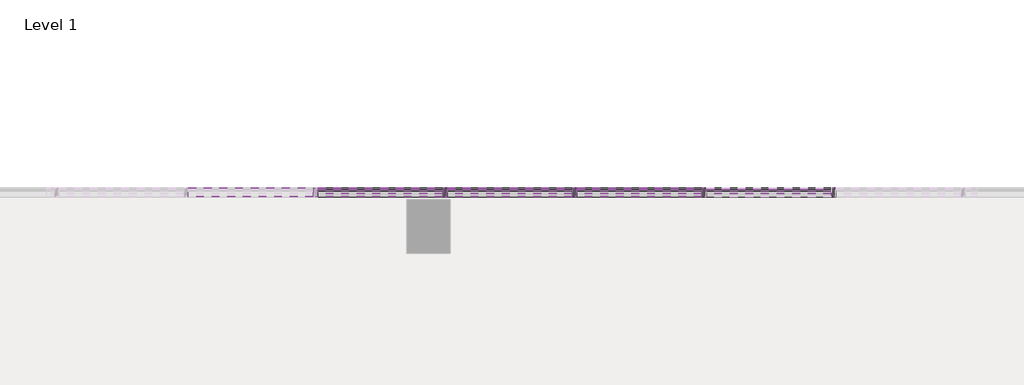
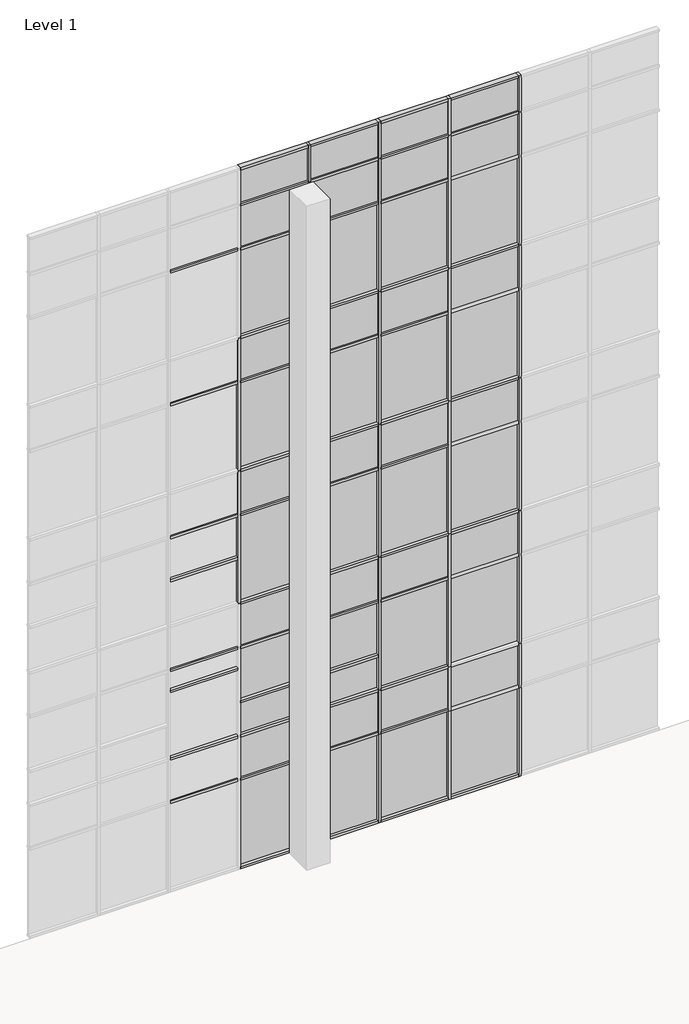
# One storey, part 12 of 23: 82 members, 46 plates.
"""IFC4 building model written with IfcOpenShell, lengths in millimetres."""

from ifc_helpers import new_model, si_unit, origin, place, context, project, spatial, transform, mapped, element, save
from components import member_2b49869a, member_f92b8aa2, member_810865a4, member_f0fea5a5, member_6d5c3e5e, member_9764dd38, system_panel_glazed_14c75400, system_panel_glazed_7d142148, system_panel_glazed_725bf07f, system_panel_solid_5dfe6f83, system_panel_solid_e25e2004, system_panel_solid_b7551183

model = new_model("IFC4")

# Units and contexts
model_context = context("Model", 3, world=origin())
ifc_project = project(units=[si_unit("LENGTHUNIT", "METRE", prefix="MILLI")], contexts=[model_context])

# Site, building, storey
site = spatial("IfcSite", under=ifc_project)
building = spatial("IfcBuilding", under=site)
storey = spatial("IfcBuildingStorey", under=building, Name="Level 1", Elevation=0.0)

# Members
placement = place(None, origin())
member_shape = member_2b49869a(model_context)
element("IfcMember", 1, ObjectType="Rectangular Mullion : 2.5\" x 5\" rectangular", at=placement, inside=storey, context=model_context, shape_type="MappedRepresentation", body=[
    mapped(member_shape, transform((-50775.4623649, 10017.7896508, 2438.4), x_axis=(1.0, 0.0, 0.0), y_axis=(0.0, -1.0, 0.0), z_axis=(0.0, 0.0, -1.0))),
])
element("IfcMember", 2, ObjectType="Rectangular Mullion : 2.5\" x 5\" rectangular", at=placement, inside=storey, context=model_context, shape_type="MappedRepresentation", body=[
    mapped(member_shape, transform((-52604.2623649, 10017.7896508, 2438.4), x_axis=(1.0, 0.0, 0.0), y_axis=(0.0, -1.0, 0.0), z_axis=(0.0, 0.0, -1.0))),
])
element("IfcMember", 3, ObjectType="Rectangular Mullion : 2.5\" x 5\" rectangular", at=placement, inside=storey, context=model_context, shape_type="MappedRepresentation", body=[
    mapped(member_shape, transform((-54433.0623649, 10017.7896508, 2438.4), x_axis=(1.0, 0.0, 0.0), y_axis=(0.0, -1.0, 0.0), z_axis=(0.0, 0.0, -1.0))),
])
element("IfcMember", 4, ObjectType="Rectangular Mullion : 2.5\" x 5\" rectangular", at=placement, inside=storey, context=model_context, shape_type="MappedRepresentation", body=[
    mapped(member_shape, transform((-56261.8623649, 10017.7896508, 2438.4), x_axis=(1.0, 0.0, 0.0), y_axis=(0.0, -1.0, 0.0), z_axis=(0.0, 0.0, -1.0))),
])
member_2_shape = member_f92b8aa2(model_context)
element("IfcMember", 5, ObjectType="Rectangular Mullion : 2.5\" x 5\" rectangular", at=placement, inside=storey, context=model_context, shape_type="MappedRepresentation", body=[
    mapped(member_2_shape, transform((-50775.4623649, 10017.7896508, 18288.0), x_axis=(1.0, 0.0, 0.0), y_axis=(0.0, -1.0, 0.0), z_axis=(0.0, 0.0, -1.0))),
])
element("IfcMember", 6, ObjectType="Rectangular Mullion : 2.5\" x 5\" rectangular", at=placement, inside=storey, context=model_context, shape_type="MappedRepresentation", body=[
    mapped(member_2_shape, transform((-52604.2623649, 10017.7896508, 18288.0), x_axis=(1.0, 0.0, 0.0), y_axis=(0.0, -1.0, 0.0), z_axis=(0.0, 0.0, -1.0))),
])
element("IfcMember", 7, ObjectType="Rectangular Mullion : 2.5\" x 5\" rectangular", at=placement, inside=storey, context=model_context, shape_type="MappedRepresentation", body=[
    mapped(member_2_shape, transform((-54433.0623649, 10017.7896508, 18288.0), x_axis=(1.0, 0.0, 0.0), y_axis=(0.0, -1.0, 0.0), z_axis=(0.0, 0.0, -1.0))),
])
element("IfcMember", 8, ObjectType="Rectangular Mullion : 2.5\" x 5\" rectangular", at=placement, inside=storey, context=model_context, shape_type="MappedRepresentation", body=[
    mapped(member_2_shape, transform((-56261.8623649, 10017.7896508, 18288.0), x_axis=(1.0, 0.0, 0.0), y_axis=(0.0, -1.0, 0.0), z_axis=(0.0, 0.0, -1.0))),
])
member_3_shape = member_810865a4(model_context)
element("IfcMember", 9, ObjectType="Rectangular Mullion : 2.5\" x 5\" rectangular", at=placement, inside=storey, context=model_context, shape_type="MappedRepresentation", body=[
    mapped(member_3_shape, transform((-50775.4623649, 10017.7896508, 14630.4), x_axis=(1.0, 0.0, 0.0), y_axis=(0.0, -1.0, 0.0), z_axis=(0.0, 0.0, -1.0))),
])
element("IfcMember", 10, ObjectType="Rectangular Mullion : 2.5\" x 5\" rectangular", at=placement, inside=storey, context=model_context, shape_type="MappedRepresentation", body=[
    mapped(member_3_shape, transform((-50775.4623649, 10017.7896508, 10972.8), x_axis=(1.0, 0.0, 0.0), y_axis=(0.0, -1.0, 0.0), z_axis=(0.0, 0.0, -1.0))),
])
element("IfcMember", 11, ObjectType="Rectangular Mullion : 2.5\" x 5\" rectangular", at=placement, inside=storey, context=model_context, shape_type="MappedRepresentation", body=[
    mapped(member_3_shape, transform((-50775.4623649, 10017.7896508, 7315.2), x_axis=(1.0, 0.0, 0.0), y_axis=(0.0, -1.0, 0.0), z_axis=(0.0, 0.0, -1.0))),
])
element("IfcMember", 12, ObjectType="Rectangular Mullion : 2.5\" x 5\" rectangular", at=placement, inside=storey, context=model_context, shape_type="MappedRepresentation", body=[
    mapped(member_3_shape, transform((-50775.4623649, 10017.7896508, 3657.6), x_axis=(1.0, 0.0, 0.0), y_axis=(0.0, -1.0, 0.0), z_axis=(0.0, 0.0, -1.0))),
])
element("IfcMember", 13, ObjectType="Rectangular Mullion : 2.5\" x 5\" rectangular", at=placement, inside=storey, context=model_context, shape_type="MappedRepresentation", body=[
    mapped(member_3_shape, transform((-52604.2623649, 10017.7896508, 14630.4), x_axis=(1.0, 0.0, 0.0), y_axis=(0.0, -1.0, 0.0), z_axis=(0.0, 0.0, -1.0))),
])
element("IfcMember", 14, ObjectType="Rectangular Mullion : 2.5\" x 5\" rectangular", at=placement, inside=storey, context=model_context, shape_type="MappedRepresentation", body=[
    mapped(member_3_shape, transform((-52604.2623649, 10017.7896508, 10972.8), x_axis=(1.0, 0.0, 0.0), y_axis=(0.0, -1.0, 0.0), z_axis=(0.0, 0.0, -1.0))),
])
element("IfcMember", 15, ObjectType="Rectangular Mullion : 2.5\" x 5\" rectangular", at=placement, inside=storey, context=model_context, shape_type="MappedRepresentation", body=[
    mapped(member_3_shape, transform((-52604.2623649, 10017.7896508, 7315.2), x_axis=(1.0, 0.0, 0.0), y_axis=(0.0, -1.0, 0.0), z_axis=(0.0, 0.0, -1.0))),
])
element("IfcMember", 16, ObjectType="Rectangular Mullion : 2.5\" x 5\" rectangular", at=placement, inside=storey, context=model_context, shape_type="MappedRepresentation", body=[
    mapped(member_3_shape, transform((-52604.2623649, 10017.7896508, 3657.6), x_axis=(1.0, 0.0, 0.0), y_axis=(0.0, -1.0, 0.0), z_axis=(0.0, 0.0, -1.0))),
])
element("IfcMember", 17, ObjectType="Rectangular Mullion : 2.5\" x 5\" rectangular", at=placement, inside=storey, context=model_context, shape_type="MappedRepresentation", body=[
    mapped(member_3_shape, transform((-54433.0623649, 10017.7896508, 14630.4), x_axis=(1.0, 0.0, 0.0), y_axis=(0.0, -1.0, 0.0), z_axis=(0.0, 0.0, -1.0))),
])
element("IfcMember", 18, ObjectType="Rectangular Mullion : 2.5\" x 5\" rectangular", at=placement, inside=storey, context=model_context, shape_type="MappedRepresentation", body=[
    mapped(member_3_shape, transform((-54433.0623649, 10017.7896508, 10972.8), x_axis=(1.0, 0.0, 0.0), y_axis=(0.0, -1.0, 0.0), z_axis=(0.0, 0.0, -1.0))),
])
element("IfcMember", 19, ObjectType="Rectangular Mullion : 2.5\" x 5\" rectangular", at=placement, inside=storey, context=model_context, shape_type="MappedRepresentation", body=[
    mapped(member_3_shape, transform((-54433.0623649, 10017.7896508, 7315.2), x_axis=(1.0, 0.0, 0.0), y_axis=(0.0, -1.0, 0.0), z_axis=(0.0, 0.0, -1.0))),
])
element("IfcMember", 20, ObjectType="Rectangular Mullion : 2.5\" x 5\" rectangular", at=placement, inside=storey, context=model_context, shape_type="MappedRepresentation", body=[
    mapped(member_3_shape, transform((-54433.0623649, 10017.7896508, 3657.6), x_axis=(1.0, 0.0, 0.0), y_axis=(0.0, -1.0, 0.0), z_axis=(0.0, 0.0, -1.0))),
])
element("IfcMember", 21, ObjectType="Rectangular Mullion : 2.5\" x 5\" rectangular", at=placement, inside=storey, context=model_context, shape_type="MappedRepresentation", body=[
    mapped(member_3_shape, transform((-56261.8623649, 10017.7896508, 14630.4), x_axis=(1.0, 0.0, 0.0), y_axis=(0.0, -1.0, 0.0), z_axis=(0.0, 0.0, -1.0))),
])
element("IfcMember", 22, ObjectType="Rectangular Mullion : 2.5\" x 5\" rectangular", at=placement, inside=storey, context=model_context, shape_type="MappedRepresentation", body=[
    mapped(member_3_shape, transform((-56261.8623649, 10017.7896508, 10972.8), x_axis=(1.0, 0.0, 0.0), y_axis=(0.0, -1.0, 0.0), z_axis=(0.0, 0.0, -1.0))),
])
element("IfcMember", 23, ObjectType="Rectangular Mullion : 2.5\" x 5\" rectangular", at=placement, inside=storey, context=model_context, shape_type="MappedRepresentation", body=[
    mapped(member_3_shape, transform((-56261.8623649, 10017.7896508, 7315.2), x_axis=(1.0, 0.0, 0.0), y_axis=(0.0, -1.0, 0.0), z_axis=(0.0, 0.0, -1.0))),
])
element("IfcMember", 24, ObjectType="Rectangular Mullion : 2.5\" x 5\" rectangular", at=placement, inside=storey, context=model_context, shape_type="MappedRepresentation", body=[
    mapped(member_3_shape, transform((-56261.8623649, 10017.7896508, 3657.6), x_axis=(1.0, 0.0, 0.0), y_axis=(0.0, -1.0, 0.0), z_axis=(0.0, 0.0, -1.0))),
])
element("IfcMember", 25, ObjectType="Rectangular Mullion : 2.5\" x 5\" rectangular", at=placement, inside=storey, context=model_context, shape_type="MappedRepresentation", body=[
    mapped(member_3_shape, transform((-58090.6623649, 10017.7896508, 10972.8), x_axis=(1.0, 0.0, 0.0), y_axis=(0.0, -1.0, 0.0), z_axis=(0.0, 0.0, -1.0))),
])
element("IfcMember", 26, ObjectType="Rectangular Mullion : 2.5\" x 5\" rectangular", at=placement, inside=storey, context=model_context, shape_type="MappedRepresentation", body=[
    mapped(member_3_shape, transform((-58090.6623649, 10017.7896508, 7315.2), x_axis=(1.0, 0.0, 0.0), y_axis=(0.0, -1.0, 0.0), z_axis=(0.0, 0.0, -1.0))),
])
member_4_shape = member_f0fea5a5(model_context)
element("IfcMember", 27, ObjectType="Rectangular Mullion : 2.5\" x 5\" rectangular", at=placement, inside=storey, context=model_context, shape_type="MappedRepresentation", body=[
    mapped(member_4_shape, transform((-50775.4623649, 10017.7896508, 0.0), x_axis=(1.0, 0.0, 0.0), y_axis=(0.0, -1.0, 0.0), z_axis=(0.0, 0.0, -1.0))),
])
element("IfcMember", 28, ObjectType="Rectangular Mullion : 2.5\" x 5\" rectangular", at=placement, inside=storey, context=model_context, shape_type="MappedRepresentation", body=[
    mapped(member_4_shape, transform((-56261.8623649, 10017.7896508, 0.0), x_axis=(1.0, 0.0, 0.0), y_axis=(0.0, -1.0, 0.0), z_axis=(0.0, 0.0, -1.0))),
])
element("IfcMember", 29, ObjectType="Rectangular Mullion : 2.5\" x 5\" rectangular", at=placement, inside=storey, context=model_context, shape_type="MappedRepresentation", body=[
    mapped(member_4_shape, transform((-52604.2623649, 10017.7896508, 0.0), x_axis=(1.0, 0.0, 0.0), y_axis=(0.0, -1.0, 0.0), z_axis=(0.0, 0.0, -1.0))),
])
element("IfcMember", 30, ObjectType="Rectangular Mullion : 2.5\" x 5\" rectangular", at=placement, inside=storey, context=model_context, shape_type="MappedRepresentation", body=[
    mapped(member_4_shape, transform((-54433.0623649, 10017.7896508, 0.0), x_axis=(1.0, 0.0, 0.0), y_axis=(0.0, -1.0, 0.0), z_axis=(0.0, 0.0, -1.0))),
])
member_5_shape = member_6d5c3e5e(model_context)
element("IfcMember", 31, ObjectType="Rectangular Mullion : 2.5\" x 5\" rectangular", at=placement, inside=storey, context=model_context, shape_type="MappedRepresentation", body=[
    mapped(member_5_shape, transform((-56293.6123649, 10017.7896508, 19304.0), x_axis=(0.0, 0.0, 1.0), y_axis=(0.0, -1.0, 0.0), z_axis=(1.0, 0.0, 0.0))),
])
element("IfcMember", 32, ObjectType="Rectangular Mullion : 2.5\" x 5\" rectangular", at=placement, inside=storey, context=model_context, shape_type="MappedRepresentation", body=[
    mapped(member_5_shape, transform((-50807.2123649, 10017.7896508, 19304.0), x_axis=(0.0, 0.0, 1.0), y_axis=(0.0, -1.0, 0.0), z_axis=(1.0, 0.0, 0.0))),
])
element("IfcMember", 33, ObjectType="Rectangular Mullion : 2.5\" x 5\" rectangular", at=placement, inside=storey, context=model_context, shape_type="MappedRepresentation", body=[
    mapped(member_5_shape, transform((-52636.0123649, 10017.7896508, 19304.0), x_axis=(0.0, 0.0, 1.0), y_axis=(0.0, -1.0, 0.0), z_axis=(1.0, 0.0, 0.0))),
])
element("IfcMember", 34, ObjectType="Rectangular Mullion : 2.5\" x 5\" rectangular", at=placement, inside=storey, context=model_context, shape_type="MappedRepresentation", body=[
    mapped(member_5_shape, transform((-54464.8123649, 10017.7896508, 19304.0), x_axis=(0.0, 0.0, 1.0), y_axis=(0.0, -1.0, 0.0), z_axis=(1.0, 0.0, 0.0))),
])
member_6_shape = member_9764dd38(model_context)
element("IfcMember", 35, ObjectType="Rectangular Mullion : 2.5\" x 5\" rectangular", at=placement, inside=storey, context=model_context, shape_type="MappedRepresentation", body=[
    mapped(member_6_shape, transform((-52636.0123649, 10017.7896508, 17068.8), x_axis=(0.0, 0.0, 1.0), y_axis=(0.0, -1.0, 0.0), z_axis=(1.0, 0.0, 0.0))),
])
element("IfcMember", 36, ObjectType="Rectangular Mullion : 2.5\" x 5\" rectangular", at=placement, inside=storey, context=model_context, shape_type="MappedRepresentation", body=[
    mapped(member_6_shape, transform((-54464.8123649, 10017.7896508, 17068.8), x_axis=(0.0, 0.0, 1.0), y_axis=(0.0, -1.0, 0.0), z_axis=(1.0, 0.0, 0.0))),
])
element("IfcMember", 37, ObjectType="Rectangular Mullion : 2.5\" x 5\" rectangular", at=placement, inside=storey, context=model_context, shape_type="MappedRepresentation", body=[
    mapped(member_6_shape, transform((-56293.6123649, 10017.7896508, 17068.8), x_axis=(0.0, 0.0, 1.0), y_axis=(0.0, -1.0, 0.0), z_axis=(1.0, 0.0, 0.0))),
])
element("IfcMember", 38, ObjectType="Rectangular Mullion : 2.5\" x 5\" rectangular", at=placement, inside=storey, context=model_context, shape_type="MappedRepresentation", body=[
    mapped(member_6_shape, transform((-58122.4123649, 10017.7896508, 17068.8), x_axis=(0.0, 0.0, 1.0), y_axis=(0.0, -1.0, 0.0), z_axis=(1.0, 0.0, 0.0))),
])
element("IfcMember", 39, ObjectType="Rectangular Mullion : 2.5\" x 5\" rectangular", at=placement, inside=storey, context=model_context, shape_type="MappedRepresentation", body=[
    mapped(member_6_shape, transform((-52636.0123649, 10017.7896508, 13411.2), x_axis=(0.0, 0.0, 1.0), y_axis=(0.0, -1.0, 0.0), z_axis=(1.0, 0.0, 0.0))),
])
element("IfcMember", 40, ObjectType="Rectangular Mullion : 2.5\" x 5\" rectangular", at=placement, inside=storey, context=model_context, shape_type="MappedRepresentation", body=[
    mapped(member_6_shape, transform((-54464.8123649, 10017.7896508, 13411.2), x_axis=(0.0, 0.0, 1.0), y_axis=(0.0, -1.0, 0.0), z_axis=(1.0, 0.0, 0.0))),
])
element("IfcMember", 41, ObjectType="Rectangular Mullion : 2.5\" x 5\" rectangular", at=placement, inside=storey, context=model_context, shape_type="MappedRepresentation", body=[
    mapped(member_6_shape, transform((-56293.6123649, 10017.7896508, 13411.2), x_axis=(0.0, 0.0, 1.0), y_axis=(0.0, -1.0, 0.0), z_axis=(1.0, 0.0, 0.0))),
])
element("IfcMember", 42, ObjectType="Rectangular Mullion : 2.5\" x 5\" rectangular", at=placement, inside=storey, context=model_context, shape_type="MappedRepresentation", body=[
    mapped(member_6_shape, transform((-58122.4123649, 10017.7896508, 13411.2), x_axis=(0.0, 0.0, 1.0), y_axis=(0.0, -1.0, 0.0), z_axis=(1.0, 0.0, 0.0))),
])
element("IfcMember", 43, ObjectType="Rectangular Mullion : 2.5\" x 5\" rectangular", at=placement, inside=storey, context=model_context, shape_type="MappedRepresentation", body=[
    mapped(member_6_shape, transform((-52636.0123649, 10017.7896508, 9753.6), x_axis=(0.0, 0.0, 1.0), y_axis=(0.0, -1.0, 0.0), z_axis=(1.0, 0.0, 0.0))),
])
element("IfcMember", 44, ObjectType="Rectangular Mullion : 2.5\" x 5\" rectangular", at=placement, inside=storey, context=model_context, shape_type="MappedRepresentation", body=[
    mapped(member_6_shape, transform((-54464.8123649, 10017.7896508, 9753.6), x_axis=(0.0, 0.0, 1.0), y_axis=(0.0, -1.0, 0.0), z_axis=(1.0, 0.0, 0.0))),
])
element("IfcMember", 45, ObjectType="Rectangular Mullion : 2.5\" x 5\" rectangular", at=placement, inside=storey, context=model_context, shape_type="MappedRepresentation", body=[
    mapped(member_6_shape, transform((-56293.6123649, 10017.7896508, 9753.6), x_axis=(0.0, 0.0, 1.0), y_axis=(0.0, -1.0, 0.0), z_axis=(1.0, 0.0, 0.0))),
])
element("IfcMember", 46, ObjectType="Rectangular Mullion : 2.5\" x 5\" rectangular", at=placement, inside=storey, context=model_context, shape_type="MappedRepresentation", body=[
    mapped(member_6_shape, transform((-58122.4123649, 10017.7896508, 9753.6), x_axis=(0.0, 0.0, 1.0), y_axis=(0.0, -1.0, 0.0), z_axis=(1.0, 0.0, 0.0))),
])
element("IfcMember", 47, ObjectType="Rectangular Mullion : 2.5\" x 5\" rectangular", at=placement, inside=storey, context=model_context, shape_type="MappedRepresentation", body=[
    mapped(member_6_shape, transform((-52636.0123649, 10017.7896508, 6096.0), x_axis=(0.0, 0.0, 1.0), y_axis=(0.0, -1.0, 0.0), z_axis=(1.0, 0.0, 0.0))),
])
element("IfcMember", 48, ObjectType="Rectangular Mullion : 2.5\" x 5\" rectangular", at=placement, inside=storey, context=model_context, shape_type="MappedRepresentation", body=[
    mapped(member_6_shape, transform((-54464.8123649, 10017.7896508, 6096.0), x_axis=(0.0, 0.0, 1.0), y_axis=(0.0, -1.0, 0.0), z_axis=(1.0, 0.0, 0.0))),
])
element("IfcMember", 49, ObjectType="Rectangular Mullion : 2.5\" x 5\" rectangular", at=placement, inside=storey, context=model_context, shape_type="MappedRepresentation", body=[
    mapped(member_6_shape, transform((-56293.6123649, 10017.7896508, 6096.0), x_axis=(0.0, 0.0, 1.0), y_axis=(0.0, -1.0, 0.0), z_axis=(1.0, 0.0, 0.0))),
])
element("IfcMember", 50, ObjectType="Rectangular Mullion : 2.5\" x 5\" rectangular", at=placement, inside=storey, context=model_context, shape_type="MappedRepresentation", body=[
    mapped(member_6_shape, transform((-58122.4123649, 10017.7896508, 6096.0), x_axis=(0.0, 0.0, 1.0), y_axis=(0.0, -1.0, 0.0), z_axis=(1.0, 0.0, 0.0))),
])
element("IfcMember", 51, ObjectType="Rectangular Mullion : 2.5\" x 5\" rectangular", at=placement, inside=storey, context=model_context, shape_type="MappedRepresentation", body=[
    mapped(member_6_shape, transform((-52636.0123649, 10017.7896508, 2470.15), x_axis=(0.0, 0.0, 1.0), y_axis=(0.0, -1.0, 0.0), z_axis=(1.0, 0.0, 0.0))),
])
element("IfcMember", 52, ObjectType="Rectangular Mullion : 2.5\" x 5\" rectangular", at=placement, inside=storey, context=model_context, shape_type="MappedRepresentation", body=[
    mapped(member_6_shape, transform((-54464.8123649, 10017.7896508, 2470.15), x_axis=(0.0, 0.0, 1.0), y_axis=(0.0, -1.0, 0.0), z_axis=(1.0, 0.0, 0.0))),
])
element("IfcMember", 53, ObjectType="Rectangular Mullion : 2.5\" x 5\" rectangular", at=placement, inside=storey, context=model_context, shape_type="MappedRepresentation", body=[
    mapped(member_6_shape, transform((-56293.6123649, 10017.7896508, 2470.15), x_axis=(0.0, 0.0, 1.0), y_axis=(0.0, -1.0, 0.0), z_axis=(1.0, 0.0, 0.0))),
])
element("IfcMember", 54, ObjectType="Rectangular Mullion : 2.5\" x 5\" rectangular", at=placement, inside=storey, context=model_context, shape_type="MappedRepresentation", body=[
    mapped(member_6_shape, transform((-58122.4123649, 10017.7896508, 2470.15), x_axis=(0.0, 0.0, 1.0), y_axis=(0.0, -1.0, 0.0), z_axis=(1.0, 0.0, 0.0))),
])
element("IfcMember", 55, ObjectType="Rectangular Mullion : 2.5\" x 5\" rectangular", at=placement, inside=storey, context=model_context, shape_type="MappedRepresentation", body=[
    mapped(member_6_shape, transform((-58122.4123649, 10017.7896508, 8566.15), x_axis=(0.0, 0.0, 1.0), y_axis=(0.0, -1.0, 0.0), z_axis=(1.0, 0.0, 0.0))),
])
element("IfcMember", 56, ObjectType="Rectangular Mullion : 2.5\" x 5\" rectangular", at=placement, inside=storey, context=model_context, shape_type="MappedRepresentation", body=[
    mapped(member_6_shape, transform((-58122.4123649, 10017.7896508, 5518.15), x_axis=(0.0, 0.0, 1.0), y_axis=(0.0, -1.0, 0.0), z_axis=(1.0, 0.0, 0.0))),
])
element("IfcMember", 57, ObjectType="Rectangular Mullion : 2.5\" x 5\" rectangular", at=placement, inside=storey, context=model_context, shape_type="MappedRepresentation", body=[
    mapped(member_6_shape, transform((-56293.6123649, 10017.7896508, 4603.75), x_axis=(0.0, 0.0, 1.0), y_axis=(0.0, -1.0, 0.0), z_axis=(1.0, 0.0, 0.0))),
])
element("IfcMember", 58, ObjectType="Rectangular Mullion : 2.5\" x 5\" rectangular", at=placement, inside=storey, context=model_context, shape_type="MappedRepresentation", body=[
    mapped(member_6_shape, transform((-54464.8123649, 10017.7896508, 4603.75), x_axis=(0.0, 0.0, 1.0), y_axis=(0.0, -1.0, 0.0), z_axis=(1.0, 0.0, 0.0))),
])
element("IfcMember", 59, ObjectType="Rectangular Mullion : 2.5\" x 5\" rectangular", at=placement, inside=storey, context=model_context, shape_type="MappedRepresentation", body=[
    mapped(member_5_shape, transform((-52572.5123649, 10017.7896508, 0.0), x_axis=(0.0, 0.0, -1.0), y_axis=(0.0, -1.0, 0.0), z_axis=(-1.0, 0.0, 0.0))),
])
element("IfcMember", 60, ObjectType="Rectangular Mullion : 2.5\" x 5\" rectangular", at=placement, inside=storey, context=model_context, shape_type="MappedRepresentation", body=[
    mapped(member_5_shape, transform((-54401.3123649, 10017.7896508, 0.0), x_axis=(0.0, 0.0, -1.0), y_axis=(0.0, -1.0, 0.0), z_axis=(-1.0, 0.0, 0.0))),
])
element("IfcMember", 61, ObjectType="Rectangular Mullion : 2.5\" x 5\" rectangular", at=placement, inside=storey, context=model_context, shape_type="MappedRepresentation", body=[
    mapped(member_5_shape, transform((-56230.1123649, 10017.7896508, 0.0), x_axis=(0.0, 0.0, -1.0), y_axis=(0.0, -1.0, 0.0), z_axis=(-1.0, 0.0, 0.0))),
])
element("IfcMember", 62, ObjectType="Rectangular Mullion : 2.5\" x 5\" rectangular", at=placement, inside=storey, context=model_context, shape_type="MappedRepresentation", body=[
    mapped(member_5_shape, transform((-58058.9123649, 10017.7896508, 0.0), x_axis=(0.0, 0.0, -1.0), y_axis=(0.0, -1.0, 0.0), z_axis=(-1.0, 0.0, 0.0))),
])
element("IfcMember", 63, ObjectType="Rectangular Mullion : 2.5\" x 5\" rectangular", at=placement, inside=storey, context=model_context, shape_type="MappedRepresentation", body=[
    mapped(member_6_shape, transform((-50807.2123649, 10017.7896508, 10972.8), x_axis=(0.0, 0.0, 1.0), y_axis=(0.0, -1.0, 0.0), z_axis=(1.0, 0.0, 0.0))),
])
element("IfcMember", 64, ObjectType="Rectangular Mullion : 2.5\" x 5\" rectangular", at=placement, inside=storey, context=model_context, shape_type="MappedRepresentation", body=[
    mapped(member_6_shape, transform((-52636.0123649, 10017.7896508, 10972.8), x_axis=(0.0, 0.0, 1.0), y_axis=(0.0, -1.0, 0.0), z_axis=(1.0, 0.0, 0.0))),
])
element("IfcMember", 65, ObjectType="Rectangular Mullion : 2.5\" x 5\" rectangular", at=placement, inside=storey, context=model_context, shape_type="MappedRepresentation", body=[
    mapped(member_6_shape, transform((-54464.8123649, 10017.7896508, 10972.8), x_axis=(0.0, 0.0, 1.0), y_axis=(0.0, -1.0, 0.0), z_axis=(1.0, 0.0, 0.0))),
])
element("IfcMember", 66, ObjectType="Rectangular Mullion : 2.5\" x 5\" rectangular", at=placement, inside=storey, context=model_context, shape_type="MappedRepresentation", body=[
    mapped(member_6_shape, transform((-56293.6123649, 10017.7896508, 10972.8), x_axis=(0.0, 0.0, 1.0), y_axis=(0.0, -1.0, 0.0), z_axis=(1.0, 0.0, 0.0))),
])
element("IfcMember", 67, ObjectType="Rectangular Mullion : 2.5\" x 5\" rectangular", at=placement, inside=storey, context=model_context, shape_type="MappedRepresentation", body=[
    mapped(member_6_shape, transform((-50807.2123649, 10017.7896508, 7315.2), x_axis=(0.0, 0.0, 1.0), y_axis=(0.0, -1.0, 0.0), z_axis=(1.0, 0.0, 0.0))),
])
element("IfcMember", 68, ObjectType="Rectangular Mullion : 2.5\" x 5\" rectangular", at=placement, inside=storey, context=model_context, shape_type="MappedRepresentation", body=[
    mapped(member_6_shape, transform((-52636.0123649, 10017.7896508, 7315.2), x_axis=(0.0, 0.0, 1.0), y_axis=(0.0, -1.0, 0.0), z_axis=(1.0, 0.0, 0.0))),
])
element("IfcMember", 69, ObjectType="Rectangular Mullion : 2.5\" x 5\" rectangular", at=placement, inside=storey, context=model_context, shape_type="MappedRepresentation", body=[
    mapped(member_6_shape, transform((-54464.8123649, 10017.7896508, 7315.2), x_axis=(0.0, 0.0, 1.0), y_axis=(0.0, -1.0, 0.0), z_axis=(1.0, 0.0, 0.0))),
])
element("IfcMember", 70, ObjectType="Rectangular Mullion : 2.5\" x 5\" rectangular", at=placement, inside=storey, context=model_context, shape_type="MappedRepresentation", body=[
    mapped(member_6_shape, transform((-56293.6123649, 10017.7896508, 7315.2), x_axis=(0.0, 0.0, 1.0), y_axis=(0.0, -1.0, 0.0), z_axis=(1.0, 0.0, 0.0))),
])
element("IfcMember", 71, ObjectType="Rectangular Mullion : 2.5\" x 5\" rectangular", at=placement, inside=storey, context=model_context, shape_type="MappedRepresentation", body=[
    mapped(member_6_shape, transform((-50807.2123649, 10017.7896508, 18288.0), x_axis=(0.0, 0.0, 1.0), y_axis=(0.0, -1.0, 0.0), z_axis=(1.0, 0.0, 0.0))),
])
element("IfcMember", 72, ObjectType="Rectangular Mullion : 2.5\" x 5\" rectangular", at=placement, inside=storey, context=model_context, shape_type="MappedRepresentation", body=[
    mapped(member_6_shape, transform((-52636.0123649, 10017.7896508, 18288.0), x_axis=(0.0, 0.0, 1.0), y_axis=(0.0, -1.0, 0.0), z_axis=(1.0, 0.0, 0.0))),
])
element("IfcMember", 73, ObjectType="Rectangular Mullion : 2.5\" x 5\" rectangular", at=placement, inside=storey, context=model_context, shape_type="MappedRepresentation", body=[
    mapped(member_6_shape, transform((-54464.8123649, 10017.7896508, 18288.0), x_axis=(0.0, 0.0, 1.0), y_axis=(0.0, -1.0, 0.0), z_axis=(1.0, 0.0, 0.0))),
])
element("IfcMember", 74, ObjectType="Rectangular Mullion : 2.5\" x 5\" rectangular", at=placement, inside=storey, context=model_context, shape_type="MappedRepresentation", body=[
    mapped(member_6_shape, transform((-56293.6123649, 10017.7896508, 18288.0), x_axis=(0.0, 0.0, 1.0), y_axis=(0.0, -1.0, 0.0), z_axis=(1.0, 0.0, 0.0))),
])
element("IfcMember", 75, ObjectType="Rectangular Mullion : 2.5\" x 5\" rectangular", at=placement, inside=storey, context=model_context, shape_type="MappedRepresentation", body=[
    mapped(member_6_shape, transform((-50807.2123649, 10017.7896508, 14630.4), x_axis=(0.0, 0.0, 1.0), y_axis=(0.0, -1.0, 0.0), z_axis=(1.0, 0.0, 0.0))),
])
element("IfcMember", 76, ObjectType="Rectangular Mullion : 2.5\" x 5\" rectangular", at=placement, inside=storey, context=model_context, shape_type="MappedRepresentation", body=[
    mapped(member_6_shape, transform((-52636.0123649, 10017.7896508, 14630.4), x_axis=(0.0, 0.0, 1.0), y_axis=(0.0, -1.0, 0.0), z_axis=(1.0, 0.0, 0.0))),
])
element("IfcMember", 77, ObjectType="Rectangular Mullion : 2.5\" x 5\" rectangular", at=placement, inside=storey, context=model_context, shape_type="MappedRepresentation", body=[
    mapped(member_6_shape, transform((-54464.8123649, 10017.7896508, 14630.4), x_axis=(0.0, 0.0, 1.0), y_axis=(0.0, -1.0, 0.0), z_axis=(1.0, 0.0, 0.0))),
])
element("IfcMember", 78, ObjectType="Rectangular Mullion : 2.5\" x 5\" rectangular", at=placement, inside=storey, context=model_context, shape_type="MappedRepresentation", body=[
    mapped(member_6_shape, transform((-56293.6123649, 10017.7896508, 14630.4), x_axis=(0.0, 0.0, 1.0), y_axis=(0.0, -1.0, 0.0), z_axis=(1.0, 0.0, 0.0))),
])
element("IfcMember", 79, ObjectType="Rectangular Mullion : 2.5\" x 5\" rectangular", at=placement, inside=storey, context=model_context, shape_type="MappedRepresentation", body=[
    mapped(member_6_shape, transform((-56293.6123649, 10017.7896508, 3657.6), x_axis=(0.0, 0.0, 1.0), y_axis=(0.0, -1.0, 0.0), z_axis=(1.0, 0.0, 0.0))),
])
element("IfcMember", 80, ObjectType="Rectangular Mullion : 2.5\" x 5\" rectangular", at=placement, inside=storey, context=model_context, shape_type="MappedRepresentation", body=[
    mapped(member_6_shape, transform((-52636.0123649, 10017.7896508, 3657.6), x_axis=(0.0, 0.0, 1.0), y_axis=(0.0, -1.0, 0.0), z_axis=(1.0, 0.0, 0.0))),
])
element("IfcMember", 81, ObjectType="Rectangular Mullion : 2.5\" x 5\" rectangular", at=placement, inside=storey, context=model_context, shape_type="MappedRepresentation", body=[
    mapped(member_6_shape, transform((-58122.4123649, 10017.7896508, 3657.6), x_axis=(0.0, 0.0, 1.0), y_axis=(0.0, -1.0, 0.0), z_axis=(1.0, 0.0, 0.0))),
])
element("IfcMember", 82, ObjectType="Rectangular Mullion : 2.5\" x 5\" rectangular", at=placement, inside=storey, context=model_context, shape_type="MappedRepresentation", body=[
    mapped(member_6_shape, transform((-54464.8123649, 10017.7896508, 3657.6), x_axis=(0.0, 0.0, 1.0), y_axis=(0.0, -1.0, 0.0), z_axis=(1.0, 0.0, 0.0))),
])

# Plates
system_panel_glazed_shape = system_panel_glazed_14c75400(model_context)
element("IfcPlate", 83, ObjectType="System Panel : Glazed", at=placement, inside=storey, context=model_context, shape_type="MappedRepresentation", body=[
    mapped(system_panel_glazed_shape, transform((-51689.8623649, 10017.7896508, 14662.15), x_axis=(1.0, 0.0, 0.0), y_axis=(0.0, 1.0, 0.0), z_axis=(0.0, 0.0, 1.0))),
])
element("IfcPlate", 84, ObjectType="System Panel : Glazed", at=placement, inside=storey, context=model_context, shape_type="MappedRepresentation", body=[
    mapped(system_panel_glazed_shape, transform((-53518.6623649, 10017.7896508, 14662.15), x_axis=(1.0, 0.0, 0.0), y_axis=(0.0, 1.0, 0.0), z_axis=(0.0, 0.0, 1.0))),
])
element("IfcPlate", 85, ObjectType="System Panel : Glazed", at=placement, inside=storey, context=model_context, shape_type="MappedRepresentation", body=[
    mapped(system_panel_glazed_shape, transform((-55347.4623649, 10017.7896508, 14662.15), x_axis=(1.0, 0.0, 0.0), y_axis=(0.0, 1.0, 0.0), z_axis=(0.0, 0.0, 1.0))),
])
element("IfcPlate", 86, ObjectType="System Panel : Glazed", at=placement, inside=storey, context=model_context, shape_type="MappedRepresentation", body=[
    mapped(system_panel_glazed_shape, transform((-57176.2623649, 10017.7896508, 14662.15), x_axis=(1.0, 0.0, 0.0), y_axis=(0.0, 1.0, 0.0), z_axis=(0.0, 0.0, 1.0))),
])
element("IfcPlate", 87, ObjectType="System Panel : Glazed", at=placement, inside=storey, context=model_context, shape_type="MappedRepresentation", body=[
    mapped(system_panel_glazed_shape, transform((-51689.8623649, 10017.7896508, 11004.55), x_axis=(1.0, 0.0, 0.0), y_axis=(0.0, 1.0, 0.0), z_axis=(0.0, 0.0, 1.0))),
])
element("IfcPlate", 88, ObjectType="System Panel : Glazed", at=placement, inside=storey, context=model_context, shape_type="MappedRepresentation", body=[
    mapped(system_panel_glazed_shape, transform((-53518.6623649, 10017.7896508, 11004.55), x_axis=(1.0, 0.0, 0.0), y_axis=(0.0, 1.0, 0.0), z_axis=(0.0, 0.0, 1.0))),
])
element("IfcPlate", 89, ObjectType="System Panel : Glazed", at=placement, inside=storey, context=model_context, shape_type="MappedRepresentation", body=[
    mapped(system_panel_glazed_shape, transform((-55347.4623649, 10017.7896508, 11004.55), x_axis=(1.0, 0.0, 0.0), y_axis=(0.0, 1.0, 0.0), z_axis=(0.0, 0.0, 1.0))),
])
element("IfcPlate", 90, ObjectType="System Panel : Glazed", at=placement, inside=storey, context=model_context, shape_type="MappedRepresentation", body=[
    mapped(system_panel_glazed_shape, transform((-57176.2623649, 10017.7896508, 11004.55), x_axis=(1.0, 0.0, 0.0), y_axis=(0.0, 1.0, 0.0), z_axis=(0.0, 0.0, 1.0))),
])
element("IfcPlate", 91, ObjectType="System Panel : Glazed", at=placement, inside=storey, context=model_context, shape_type="MappedRepresentation", body=[
    mapped(system_panel_glazed_shape, transform((-51689.8623649, 10017.7896508, 7346.95), x_axis=(1.0, 0.0, 0.0), y_axis=(0.0, 1.0, 0.0), z_axis=(0.0, 0.0, 1.0))),
])
element("IfcPlate", 92, ObjectType="System Panel : Glazed", at=placement, inside=storey, context=model_context, shape_type="MappedRepresentation", body=[
    mapped(system_panel_glazed_shape, transform((-53518.6623649, 10017.7896508, 7346.95), x_axis=(1.0, 0.0, 0.0), y_axis=(0.0, 1.0, 0.0), z_axis=(0.0, 0.0, 1.0))),
])
element("IfcPlate", 93, ObjectType="System Panel : Glazed", at=placement, inside=storey, context=model_context, shape_type="MappedRepresentation", body=[
    mapped(system_panel_glazed_shape, transform((-55347.4623649, 10017.7896508, 7346.95), x_axis=(1.0, 0.0, 0.0), y_axis=(0.0, 1.0, 0.0), z_axis=(0.0, 0.0, 1.0))),
])
element("IfcPlate", 94, ObjectType="System Panel : Glazed", at=placement, inside=storey, context=model_context, shape_type="MappedRepresentation", body=[
    mapped(system_panel_glazed_shape, transform((-57176.2623649, 10017.7896508, 7346.95), x_axis=(1.0, 0.0, 0.0), y_axis=(0.0, 1.0, 0.0), z_axis=(0.0, 0.0, 1.0))),
])
element("IfcPlate", 95, ObjectType="System Panel : Glazed", at=placement, inside=storey, context=model_context, shape_type="MappedRepresentation", body=[
    mapped(system_panel_glazed_shape, transform((-51689.8623649, 10017.7896508, 3689.35), x_axis=(1.0, 0.0, 0.0), y_axis=(0.0, 1.0, 0.0), z_axis=(0.0, 0.0, 1.0))),
])
element("IfcPlate", 96, ObjectType="System Panel : Glazed", at=placement, inside=storey, context=model_context, shape_type="MappedRepresentation", body=[
    mapped(system_panel_glazed_shape, transform((-53518.6623649, 10017.7896508, 3689.35), x_axis=(1.0, 0.0, 0.0), y_axis=(0.0, 1.0, 0.0), z_axis=(0.0, 0.0, 1.0))),
])
element("IfcPlate", 97, ObjectType="System Panel : Glazed", at=placement, inside=storey, context=model_context, shape_type="MappedRepresentation", body=[
    mapped(system_panel_glazed_shape, transform((-51689.8623649, 10017.7896508, 63.5), x_axis=(1.0, 0.0, 0.0), y_axis=(0.0, 1.0, 0.0), z_axis=(0.0, 0.0, 1.0))),
])
element("IfcPlate", 98, ObjectType="System Panel : Glazed", at=placement, inside=storey, context=model_context, shape_type="MappedRepresentation", body=[
    mapped(system_panel_glazed_shape, transform((-53518.6623649, 10017.7896508, 63.5), x_axis=(1.0, 0.0, 0.0), y_axis=(0.0, 1.0, 0.0), z_axis=(0.0, 0.0, 1.0))),
])
element("IfcPlate", 99, ObjectType="System Panel : Glazed", at=placement, inside=storey, context=model_context, shape_type="MappedRepresentation", body=[
    mapped(system_panel_glazed_shape, transform((-55347.4623649, 10017.7896508, 63.5), x_axis=(1.0, 0.0, 0.0), y_axis=(0.0, 1.0, 0.0), z_axis=(0.0, 0.0, 1.0))),
])
element("IfcPlate", 100, ObjectType="System Panel : Glazed", at=placement, inside=storey, context=model_context, shape_type="MappedRepresentation", body=[
    mapped(system_panel_glazed_shape, transform((-57176.2623649, 10017.7896508, 63.5), x_axis=(1.0, 0.0, 0.0), y_axis=(0.0, 1.0, 0.0), z_axis=(0.0, 0.0, 1.0))),
])
system_panel_glazed_2_shape = system_panel_glazed_7d142148(model_context)
element("IfcPlate", 101, ObjectType="System Panel : Glazed", at=placement, inside=storey, context=model_context, shape_type="MappedRepresentation", body=[
    mapped(system_panel_glazed_2_shape, transform((-55347.4623649, 10017.7896508, 3689.35), x_axis=(1.0, 0.0, 0.0), y_axis=(0.0, 1.0, 0.0), z_axis=(0.0, 0.0, 1.0))),
])
element("IfcPlate", 102, ObjectType="System Panel : Glazed", at=placement, inside=storey, context=model_context, shape_type="MappedRepresentation", body=[
    mapped(system_panel_glazed_2_shape, transform((-57176.2623649, 10017.7896508, 3689.35), x_axis=(1.0, 0.0, 0.0), y_axis=(0.0, 1.0, 0.0), z_axis=(0.0, 0.0, 1.0))),
])
system_panel_glazed_3_shape = system_panel_glazed_725bf07f(model_context)
element("IfcPlate", 103, ObjectType="System Panel : Glazed", at=placement, inside=storey, context=model_context, shape_type="MappedRepresentation", body=[
    mapped(system_panel_glazed_3_shape, transform((-57176.2623649, 10017.7896508, 4635.5), x_axis=(1.0, 0.0, 0.0), y_axis=(0.0, 1.0, 0.0), z_axis=(0.0, 0.0, 1.0))),
])
element("IfcPlate", 104, ObjectType="System Panel : Glazed", at=placement, inside=storey, context=model_context, shape_type="MappedRepresentation", body=[
    mapped(system_panel_glazed_3_shape, transform((-55347.4623649, 10017.7896508, 4635.5), x_axis=(1.0, 0.0, 0.0), y_axis=(0.0, 1.0, 0.0), z_axis=(0.0, 0.0, 1.0))),
])
system_panel_solid_shape = system_panel_solid_5dfe6f83(model_context)
element("IfcPlate", 105, ObjectType="System Panel : Solid", at=placement, inside=storey, context=model_context, shape_type="MappedRepresentation", body=[
    mapped(system_panel_solid_shape, transform((-57176.2623649, 10017.7896508, 18319.75), x_axis=(1.0, 0.0, 0.0), y_axis=(0.0, 1.0, 0.0), z_axis=(0.0, 0.0, 1.0))),
])
element("IfcPlate", 106, ObjectType="System Panel : Solid", at=placement, inside=storey, context=model_context, shape_type="MappedRepresentation", body=[
    mapped(system_panel_solid_shape, transform((-55347.4623649, 10017.7896508, 18319.75), x_axis=(1.0, 0.0, 0.0), y_axis=(0.0, 1.0, 0.0), z_axis=(0.0, 0.0, 1.0))),
])
element("IfcPlate", 107, ObjectType="System Panel : Solid", at=placement, inside=storey, context=model_context, shape_type="MappedRepresentation", body=[
    mapped(system_panel_solid_shape, transform((-53518.6623649, 10017.7896508, 18319.75), x_axis=(1.0, 0.0, 0.0), y_axis=(0.0, 1.0, 0.0), z_axis=(0.0, 0.0, 1.0))),
])
element("IfcPlate", 108, ObjectType="System Panel : Solid", at=placement, inside=storey, context=model_context, shape_type="MappedRepresentation", body=[
    mapped(system_panel_solid_shape, transform((-51689.8623649, 10017.7896508, 18319.75), x_axis=(1.0, 0.0, 0.0), y_axis=(0.0, 1.0, 0.0), z_axis=(0.0, 0.0, 1.0))),
])
system_panel_solid_2_shape = system_panel_solid_e25e2004(model_context)
element("IfcPlate", 109, ObjectType="System Panel : Solid", at=placement, inside=storey, context=model_context, shape_type="MappedRepresentation", body=[
    mapped(system_panel_solid_2_shape, transform((-51689.8623649, 10017.7896508, 17100.55), x_axis=(1.0, 0.0, 0.0), y_axis=(0.0, 1.0, 0.0), z_axis=(0.0, 0.0, 1.0))),
])
element("IfcPlate", 110, ObjectType="System Panel : Solid", at=placement, inside=storey, context=model_context, shape_type="MappedRepresentation", body=[
    mapped(system_panel_solid_2_shape, transform((-53518.6623649, 10017.7896508, 17100.55), x_axis=(1.0, 0.0, 0.0), y_axis=(0.0, 1.0, 0.0), z_axis=(0.0, 0.0, 1.0))),
])
element("IfcPlate", 111, ObjectType="System Panel : Solid", at=placement, inside=storey, context=model_context, shape_type="MappedRepresentation", body=[
    mapped(system_panel_solid_2_shape, transform((-55347.4623649, 10017.7896508, 17100.55), x_axis=(1.0, 0.0, 0.0), y_axis=(0.0, 1.0, 0.0), z_axis=(0.0, 0.0, 1.0))),
])
element("IfcPlate", 112, ObjectType="System Panel : Solid", at=placement, inside=storey, context=model_context, shape_type="MappedRepresentation", body=[
    mapped(system_panel_solid_2_shape, transform((-57176.2623649, 10017.7896508, 17100.55), x_axis=(1.0, 0.0, 0.0), y_axis=(0.0, 1.0, 0.0), z_axis=(0.0, 0.0, 1.0))),
])
element("IfcPlate", 113, ObjectType="System Panel : Solid", at=placement, inside=storey, context=model_context, shape_type="MappedRepresentation", body=[
    mapped(system_panel_solid_2_shape, transform((-51689.8623649, 10017.7896508, 13442.95), x_axis=(1.0, 0.0, 0.0), y_axis=(0.0, 1.0, 0.0), z_axis=(0.0, 0.0, 1.0))),
])
element("IfcPlate", 114, ObjectType="System Panel : Solid", at=placement, inside=storey, context=model_context, shape_type="MappedRepresentation", body=[
    mapped(system_panel_solid_2_shape, transform((-53518.6623649, 10017.7896508, 13442.95), x_axis=(1.0, 0.0, 0.0), y_axis=(0.0, 1.0, 0.0), z_axis=(0.0, 0.0, 1.0))),
])
element("IfcPlate", 115, ObjectType="System Panel : Solid", at=placement, inside=storey, context=model_context, shape_type="MappedRepresentation", body=[
    mapped(system_panel_solid_2_shape, transform((-55347.4623649, 10017.7896508, 13442.95), x_axis=(1.0, 0.0, 0.0), y_axis=(0.0, 1.0, 0.0), z_axis=(0.0, 0.0, 1.0))),
])
element("IfcPlate", 116, ObjectType="System Panel : Solid", at=placement, inside=storey, context=model_context, shape_type="MappedRepresentation", body=[
    mapped(system_panel_solid_2_shape, transform((-57176.2623649, 10017.7896508, 13442.95), x_axis=(1.0, 0.0, 0.0), y_axis=(0.0, 1.0, 0.0), z_axis=(0.0, 0.0, 1.0))),
])
element("IfcPlate", 117, ObjectType="System Panel : Solid", at=placement, inside=storey, context=model_context, shape_type="MappedRepresentation", body=[
    mapped(system_panel_solid_2_shape, transform((-51689.8623649, 10017.7896508, 9785.35), x_axis=(1.0, 0.0, 0.0), y_axis=(0.0, 1.0, 0.0), z_axis=(0.0, 0.0, 1.0))),
])
element("IfcPlate", 118, ObjectType="System Panel : Solid", at=placement, inside=storey, context=model_context, shape_type="MappedRepresentation", body=[
    mapped(system_panel_solid_2_shape, transform((-53518.6623649, 10017.7896508, 9785.35), x_axis=(1.0, 0.0, 0.0), y_axis=(0.0, 1.0, 0.0), z_axis=(0.0, 0.0, 1.0))),
])
element("IfcPlate", 119, ObjectType="System Panel : Solid", at=placement, inside=storey, context=model_context, shape_type="MappedRepresentation", body=[
    mapped(system_panel_solid_2_shape, transform((-55347.4623649, 10017.7896508, 9785.35), x_axis=(1.0, 0.0, 0.0), y_axis=(0.0, 1.0, 0.0), z_axis=(0.0, 0.0, 1.0))),
])
element("IfcPlate", 120, ObjectType="System Panel : Solid", at=placement, inside=storey, context=model_context, shape_type="MappedRepresentation", body=[
    mapped(system_panel_solid_2_shape, transform((-57176.2623649, 10017.7896508, 9785.35), x_axis=(1.0, 0.0, 0.0), y_axis=(0.0, 1.0, 0.0), z_axis=(0.0, 0.0, 1.0))),
])
element("IfcPlate", 121, ObjectType="System Panel : Solid", at=placement, inside=storey, context=model_context, shape_type="MappedRepresentation", body=[
    mapped(system_panel_solid_2_shape, transform((-51689.8623649, 10017.7896508, 6127.75), x_axis=(1.0, 0.0, 0.0), y_axis=(0.0, 1.0, 0.0), z_axis=(0.0, 0.0, 1.0))),
])
element("IfcPlate", 122, ObjectType="System Panel : Solid", at=placement, inside=storey, context=model_context, shape_type="MappedRepresentation", body=[
    mapped(system_panel_solid_2_shape, transform((-53518.6623649, 10017.7896508, 6127.75), x_axis=(1.0, 0.0, 0.0), y_axis=(0.0, 1.0, 0.0), z_axis=(0.0, 0.0, 1.0))),
])
element("IfcPlate", 123, ObjectType="System Panel : Solid", at=placement, inside=storey, context=model_context, shape_type="MappedRepresentation", body=[
    mapped(system_panel_solid_2_shape, transform((-55347.4623649, 10017.7896508, 6127.75), x_axis=(1.0, 0.0, 0.0), y_axis=(0.0, 1.0, 0.0), z_axis=(0.0, 0.0, 1.0))),
])
element("IfcPlate", 124, ObjectType="System Panel : Solid", at=placement, inside=storey, context=model_context, shape_type="MappedRepresentation", body=[
    mapped(system_panel_solid_2_shape, transform((-57176.2623649, 10017.7896508, 6127.75), x_axis=(1.0, 0.0, 0.0), y_axis=(0.0, 1.0, 0.0), z_axis=(0.0, 0.0, 1.0))),
])
system_panel_solid_3_shape = system_panel_solid_b7551183(model_context)
element("IfcPlate", 125, ObjectType="System Panel : Solid", at=placement, inside=storey, context=model_context, shape_type="MappedRepresentation", body=[
    mapped(system_panel_solid_3_shape, transform((-51689.8623649, 10017.7896508, 2501.9), x_axis=(1.0, 0.0, 0.0), y_axis=(0.0, 1.0, 0.0), z_axis=(0.0, 0.0, 1.0))),
])
element("IfcPlate", 126, ObjectType="System Panel : Solid", at=placement, inside=storey, context=model_context, shape_type="MappedRepresentation", body=[
    mapped(system_panel_solid_3_shape, transform((-53518.6623649, 10017.7896508, 2501.9), x_axis=(1.0, 0.0, 0.0), y_axis=(0.0, 1.0, 0.0), z_axis=(0.0, 0.0, 1.0))),
])
element("IfcPlate", 127, ObjectType="System Panel : Solid", at=placement, inside=storey, context=model_context, shape_type="MappedRepresentation", body=[
    mapped(system_panel_solid_3_shape, transform((-55347.4623649, 10017.7896508, 2501.9), x_axis=(1.0, 0.0, 0.0), y_axis=(0.0, 1.0, 0.0), z_axis=(0.0, 0.0, 1.0))),
])
element("IfcPlate", 128, ObjectType="System Panel : Solid", at=placement, inside=storey, context=model_context, shape_type="MappedRepresentation", body=[
    mapped(system_panel_solid_3_shape, transform((-57176.2623649, 10017.7896508, 2501.9), x_axis=(1.0, 0.0, 0.0), y_axis=(0.0, 1.0, 0.0), z_axis=(0.0, 0.0, 1.0))),
])

save(model, "model.ifc")
